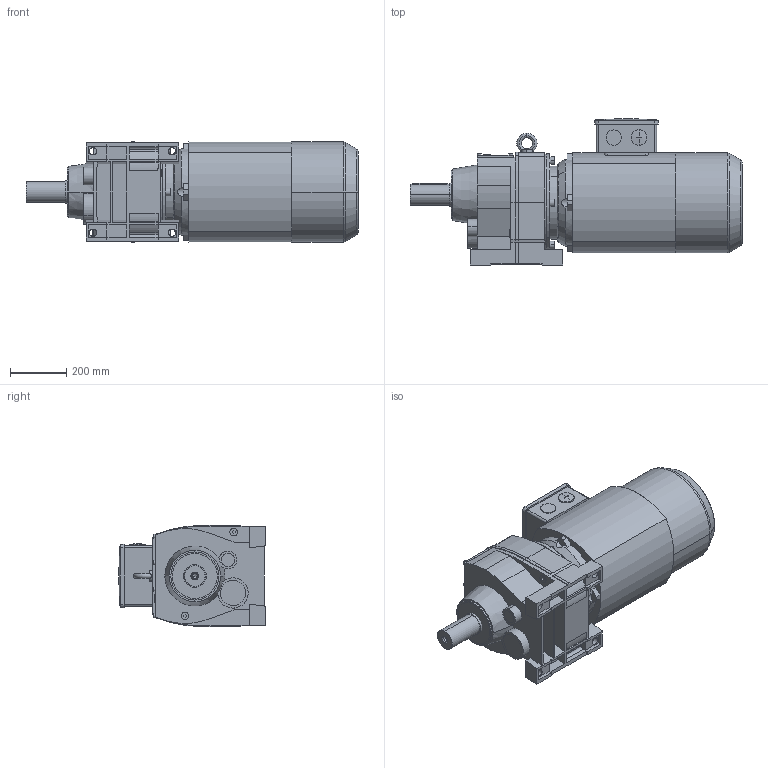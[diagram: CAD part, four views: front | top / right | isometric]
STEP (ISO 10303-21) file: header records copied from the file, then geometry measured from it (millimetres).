
FILE_DESCRIPTION(('STEP AP214'),'1');
FILE_NAME('STEP-File.stp','2018-01-01T00:00:00',(' '),('KEB'),' ','KEB-DRIVE',' ');
FILE_SCHEMA(('AUTOMOTIVE_DESIGN { 1 0 10303 214 1 1 1 1 }'));
Length unit declared in the file: millimetre
Products named in the file (9): g7a; w7_we_75x140; cz7; a18l3; kka05; PLUG_M50; SCREW-PLUG_M50; na18e; G72A DA200LB4§CAD13
Assembly tree (8 placements, depth 2):
  G72A DA200LB4§CAD13
    g7a
    w7_we_75x140
    cz7
    a18l3
    kka05
    PLUG_M50
    SCREW-PLUG_M50
    na18e
Bounding box: 1181.5 x 520.5 x 360 mm (x, y, z)
Volume: 108386203.3 mm3; surface area: 2540020.4 mm2
Topology: 8 solids, 8 shells, 722 faces, 2333 edges, 1995 vertices
Faces by surface type: plane 560, cylinder 134, cone 16, torus 10, sphere 2
Entity records: 31024 total; most frequent: CARTESIAN_POINT 7992, ORIENTED_EDGE 4662, DIRECTION 3064, EDGE_CURVE 2331, VERTEX_POINT 1995, VECTOR 1952, LINE 1952, EDGE_LOOP 1102
